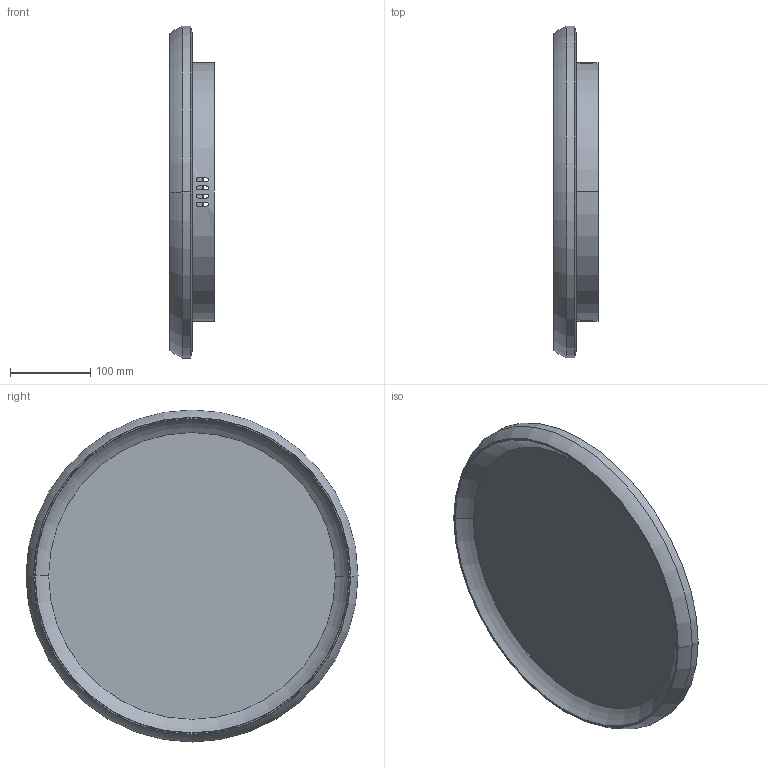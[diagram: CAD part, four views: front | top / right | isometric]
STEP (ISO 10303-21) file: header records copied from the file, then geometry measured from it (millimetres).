
FILE_DESCRIPTION((''),'2;1');
FILE_NAME('ASM0001_ASM','2026-06-27T11:28:28',('Administrator'),(''),'CREO PARAMETRIC BY PTC INC, 2021164','CREO PARAMETRIC BY PTC INC, 2021164','');
FILE_SCHEMA(('CONFIG_CONTROL_DESIGN','SHAPE_APPEARANCE_LAYERS_GROUPS'));
Length unit declared in the file: millimetre
Products named in the file (5): PRT0001; PRT0002; PRT0003; PRT0004; ASM0001_ASM
Assembly tree (5 placements, depth 2):
  ASM0001_ASM
    PRT0001
    PRT0002
    PRT0003
    PRT0004  x2
Bounding box: 55.2 x 413 x 413 mm (x, y, z)
Volume: 1781467.1 mm3; surface area: 467427.2 mm2
Topology: 5 solids, 5 shells, 611 faces, 1592 edges, 1024 vertices
Faces by surface type: plane 315, cylinder 222, torus 36, bspline 32, cone 6
Entity records: 27060 total; most frequent: CARTESIAN_POINT 7055, ORIENTED_EDGE 2664, DIRECTION 2334, PRESENTATION_STYLE_ASSIGNMENT 1849, STYLED_ITEM 1846, CURVE_STYLE 1332, EDGE_CURVE 1332, VERTEX_POINT 860
